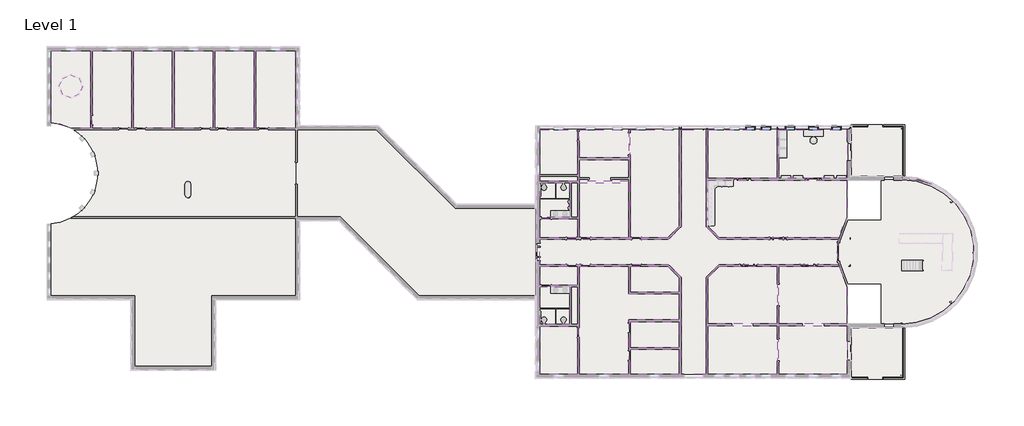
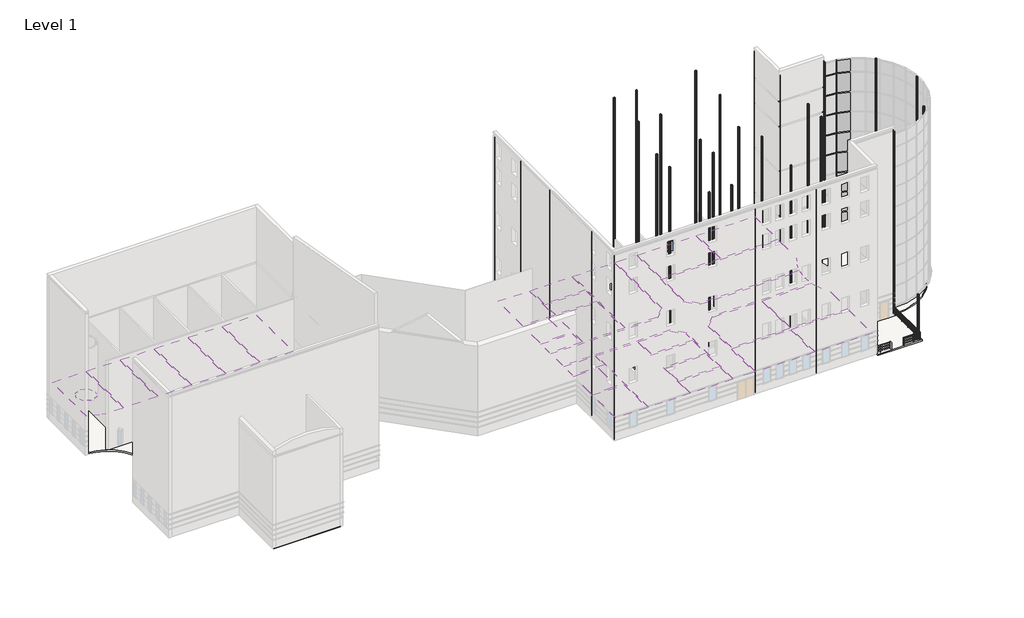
# One storey, part 14 of 16: 39 columns, 29 coverings, 14 members, 9 plates, 5 slabs, 5 windows, 1 railing.
"""IFC4 building model written with IfcOpenShell, lengths in millimetres."""

from ifc_helpers import new_model, si_unit, point, frame, frame_2d, origin, place, context, project, spatial, polyline, circle_curve, trimmed, segment, composite_curve, outline, extrude, transform, mapped, element, save
from components import hss_hollow_structural_section_column_hss6x6x5_8_3ddd67f5, hss_hollow_structural_section_column_hss6x6x5_8_4a98404a, hss_hollow_structural_section_column_hss6x6x5_8_caf964b1, hss_hollow_structural_section_column_hss6x6x5_8_5bbd49d1, member_408f6c1a, member_f0fea5a5, member_788d4f16, system_panel_glazed_294e175a, system_panel_glazed_36605c35, system_panel_glazed_41a16be2, handrail_pipe_807aec9c, window_145f8bd4

model = new_model("IFC4")

# Units and contexts
model_context = context("Model", 3, world=origin())
ifc_project = project(units=[si_unit("LENGTHUNIT", "METRE", prefix="MILLI")], contexts=[model_context])

# Site, building, storey
site = spatial("IfcSite", under=ifc_project)
building = spatial("IfcBuilding", under=site)
storey = spatial("IfcBuildingStorey", under=building, Name="Level 1", Elevation=0.0)

# Columns
placement = place(None, origin())
hss_hollow_structural_section_column_hss6x6x5_8_shape = hss_hollow_structural_section_column_hss6x6x5_8_3ddd67f5(model_context)
element("IfcColumn", 1, ObjectType="HSS-Hollow Structural Section-Column : HSS6X6X5/8", at=placement, inside=storey, context=model_context, shape_type="MappedRepresentation", body=[
    mapped(hss_hollow_structural_section_column_hss6x6x5_8_shape, transform((15099.262245, 12568.0862109, 0.0), x_axis=(1.0, 0.0, 0.0), y_axis=(0.0, 1.0, 0.0), z_axis=(0.0, 0.0, 1.0))),
])
element("IfcColumn", 2, ObjectType="HSS-Hollow Structural Section-Column : HSS6X6X5/8", at=placement, inside=storey, context=model_context, shape_type="MappedRepresentation", body=[
    mapped(hss_hollow_structural_section_column_hss6x6x5_8_shape, transform((15099.262245, 12239.4737109, 0.0), x_axis=(1.0, 0.0, 0.0), y_axis=(0.0, 1.0, 0.0), z_axis=(0.0, 0.0, 1.0))),
])
element("IfcColumn", 3, ObjectType="HSS-Hollow Structural Section-Column : HSS6X6X5/8", at=placement, inside=storey, context=model_context, shape_type="MappedRepresentation", body=[
    mapped(hss_hollow_structural_section_column_hss6x6x5_8_shape, transform((19914.9245899, 10244.7610558, 0.0), x_axis=(0.7071067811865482, 0.7071067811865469, 0.0), y_axis=(-0.7071067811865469, 0.7071067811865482, 0.0), z_axis=(0.0, 0.0, 1.0))),
])
element("IfcColumn", 4, ObjectType="HSS-Hollow Structural Section-Column : HSS6X6X5/8", at=placement, inside=storey, context=model_context, shape_type="MappedRepresentation", body=[
    mapped(hss_hollow_structural_section_column_hss6x6x5_8_shape, transform((21909.637245, 5429.0987109, 0.0), x_axis=(0.0, 1.0, 0.0), y_axis=(-1.0, 0.0, 0.0), z_axis=(0.0, 0.0, 1.0))),
])
element("IfcColumn", 5, ObjectType="HSS-Hollow Structural Section-Column : HSS6X6X5/8", at=placement, inside=storey, context=model_context, shape_type="MappedRepresentation", body=[
    mapped(hss_hollow_structural_section_column_hss6x6x5_8_shape, transform((19877.7716486, 576.5678742, 0.0), x_axis=(0.7071067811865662, 0.7071067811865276, 0.0), y_axis=(-0.7071067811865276, 0.7071067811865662, 0.0), z_axis=(0.0, 0.0, 1.0))),
])
element("IfcColumn", 6, ObjectType="HSS-Hollow Structural Section-Column : HSS6X6X5/8", at=placement, inside=storey, context=model_context, shape_type="MappedRepresentation", body=[
    mapped(hss_hollow_structural_section_column_hss6x6x5_8_shape, transform((-20081.325255, 17444.8862109, 0.0), x_axis=(1.0, 0.0, 0.0), y_axis=(0.0, 1.0, 0.0), z_axis=(0.0, 0.0, 1.0))),
])
element("IfcColumn", 7, ObjectType="HSS-Hollow Structural Section-Column : HSS6X6X5/8", at=placement, inside=storey, context=model_context, shape_type="MappedRepresentation", body=[
    mapped(hss_hollow_structural_section_column_hss6x6x5_8_shape, transform((-6314.525255, 17444.8862109, 0.0), x_axis=(1.0, 0.0, 0.0), y_axis=(0.0, 1.0, 0.0), z_axis=(0.0, 0.0, 1.0))),
])
element("IfcColumn", 8, ObjectType="HSS-Hollow Structural Section-Column : HSS6X6X5/8", at=placement, inside=storey, context=model_context, shape_type="MappedRepresentation", body=[
    mapped(hss_hollow_structural_section_column_hss6x6x5_8_shape, transform((-3720.550255, 17444.8862109, 0.0), x_axis=(1.0, 0.0, 0.0), y_axis=(0.0, 1.0, 0.0), z_axis=(0.0, 0.0, 1.0))),
])
element("IfcColumn", 9, ObjectType="HSS-Hollow Structural Section-Column : HSS6X6X5/8", at=placement, inside=storey, context=model_context, shape_type="MappedRepresentation", body=[
    mapped(hss_hollow_structural_section_column_hss6x6x5_8_shape, transform((3162.849745, 17444.8862109, 0.0), x_axis=(1.0, 0.0, 0.0), y_axis=(0.0, 1.0, 0.0), z_axis=(0.0, 0.0, 1.0))),
])
element("IfcColumn", 10, ObjectType="HSS-Hollow Structural Section-Column : HSS6X6X5/8", at=placement, inside=storey, context=model_context, shape_type="MappedRepresentation", body=[
    mapped(hss_hollow_structural_section_column_hss6x6x5_8_shape, transform((10046.249745, 17444.8862109, 0.0), x_axis=(1.0, 0.0, 0.0), y_axis=(0.0, 1.0, 0.0), z_axis=(0.0, 0.0, 1.0))),
])
element("IfcColumn", 11, ObjectType="HSS-Hollow Structural Section-Column : HSS6X6X5/8", at=placement, inside=storey, context=model_context, shape_type="MappedRepresentation", body=[
    mapped(hss_hollow_structural_section_column_hss6x6x5_8_shape, transform((-20081.325255, 12568.0862109, 0.0), x_axis=(1.0, 0.0, 0.0), y_axis=(0.0, 1.0, 0.0), z_axis=(0.0, 0.0, 1.0))),
])
element("IfcColumn", 12, ObjectType="HSS-Hollow Structural Section-Column : HSS6X6X5/8", at=placement, inside=storey, context=model_context, shape_type="MappedRepresentation", body=[
    mapped(hss_hollow_structural_section_column_hss6x6x5_8_shape, transform((-6314.525255, 12568.0862109, 0.0), x_axis=(1.0, 0.0, 0.0), y_axis=(0.0, 1.0, 0.0), z_axis=(0.0, 0.0, 1.0))),
])
element("IfcColumn", 13, ObjectType="HSS-Hollow Structural Section-Column : HSS6X6X5/8", at=placement, inside=storey, context=model_context, shape_type="MappedRepresentation", body=[
    mapped(hss_hollow_structural_section_column_hss6x6x5_8_shape, transform((-3720.550255, 12568.0862109, 0.0), x_axis=(1.0, 0.0, 0.0), y_axis=(0.0, 1.0, 0.0), z_axis=(0.0, 0.0, 1.0))),
])
element("IfcColumn", 14, ObjectType="HSS-Hollow Structural Section-Column : HSS6X6X5/8", at=placement, inside=storey, context=model_context, shape_type="MappedRepresentation", body=[
    mapped(hss_hollow_structural_section_column_hss6x6x5_8_shape, transform((3162.849745, 12568.0862109, 0.0), x_axis=(1.0, 0.0, 0.0), y_axis=(0.0, 1.0, 0.0), z_axis=(0.0, 0.0, 1.0))),
])
element("IfcColumn", 15, ObjectType="HSS-Hollow Structural Section-Column : HSS6X6X5/8", at=placement, inside=storey, context=model_context, shape_type="MappedRepresentation", body=[
    mapped(hss_hollow_structural_section_column_hss6x6x5_8_shape, transform((10046.249745, 12568.0862109, 0.0), x_axis=(1.0, 0.0, 0.0), y_axis=(0.0, 1.0, 0.0), z_axis=(0.0, 0.0, 1.0))),
])
element("IfcColumn", 16, ObjectType="HSS-Hollow Structural Section-Column : HSS6X6X5/8", at=placement, inside=storey, context=model_context, shape_type="MappedRepresentation", body=[
    mapped(hss_hollow_structural_section_column_hss6x6x5_8_shape, transform((-20081.325255, -1709.8887891, 0.0), x_axis=(1.0, 0.0, 0.0), y_axis=(0.0, 1.0, 0.0), z_axis=(0.0, 0.0, 1.0))),
])
element("IfcColumn", 17, ObjectType="HSS-Hollow Structural Section-Column : HSS6X6X5/8", at=placement, inside=storey, context=model_context, shape_type="MappedRepresentation", body=[
    mapped(hss_hollow_structural_section_column_hss6x6x5_8_shape, transform((-6314.525255, -1709.8887891, 0.0), x_axis=(1.0, 0.0, 0.0), y_axis=(0.0, 1.0, 0.0), z_axis=(0.0, 0.0, 1.0))),
])
element("IfcColumn", 18, ObjectType="HSS-Hollow Structural Section-Column : HSS6X6X5/8", at=placement, inside=storey, context=model_context, shape_type="MappedRepresentation", body=[
    mapped(hss_hollow_structural_section_column_hss6x6x5_8_shape, transform((-3720.550255, -1709.8887891, 0.0), x_axis=(1.0, 0.0, 0.0), y_axis=(0.0, 1.0, 0.0), z_axis=(0.0, 0.0, 1.0))),
])
element("IfcColumn", 19, ObjectType="HSS-Hollow Structural Section-Column : HSS6X6X5/8", at=placement, inside=storey, context=model_context, shape_type="MappedRepresentation", body=[
    mapped(hss_hollow_structural_section_column_hss6x6x5_8_shape, transform((3162.849745, -1709.8887891, 0.0), x_axis=(1.0, 0.0, 0.0), y_axis=(0.0, 1.0, 0.0), z_axis=(0.0, 0.0, 1.0))),
])
element("IfcColumn", 20, ObjectType="HSS-Hollow Structural Section-Column : HSS6X6X5/8", at=placement, inside=storey, context=model_context, shape_type="MappedRepresentation", body=[
    mapped(hss_hollow_structural_section_column_hss6x6x5_8_shape, transform((10046.249745, -1709.8887891, 0.0), x_axis=(1.0, 0.0, 0.0), y_axis=(0.0, 1.0, 0.0), z_axis=(0.0, 0.0, 1.0))),
])
element("IfcColumn", 21, ObjectType="HSS-Hollow Structural Section-Column : HSS6X6X5/8", at=placement, inside=storey, context=model_context, shape_type="MappedRepresentation", body=[
    mapped(hss_hollow_structural_section_column_hss6x6x5_8_shape, transform((-20081.325255, -6586.6887891, 0.0), x_axis=(-1.0, 0.0, 0.0), y_axis=(0.0, -1.0, 0.0), z_axis=(0.0, 0.0, 1.0))),
])
element("IfcColumn", 22, ObjectType="HSS-Hollow Structural Section-Column : HSS6X6X5/8", at=placement, inside=storey, context=model_context, shape_type="MappedRepresentation", body=[
    mapped(hss_hollow_structural_section_column_hss6x6x5_8_shape, transform((-6314.525255, -6586.6887891, 0.0), x_axis=(-1.0, 0.0, 0.0), y_axis=(0.0, -1.0, 0.0), z_axis=(0.0, 0.0, 1.0))),
])
element("IfcColumn", 23, ObjectType="HSS-Hollow Structural Section-Column : HSS6X6X5/8", at=placement, inside=storey, context=model_context, shape_type="MappedRepresentation", body=[
    mapped(hss_hollow_structural_section_column_hss6x6x5_8_shape, transform((-3720.550255, -6586.6887891, 0.0), x_axis=(-1.0, 0.0, 0.0), y_axis=(0.0, -1.0, 0.0), z_axis=(0.0, 0.0, 1.0))),
])
element("IfcColumn", 24, ObjectType="HSS-Hollow Structural Section-Column : HSS6X6X5/8", at=placement, inside=storey, context=model_context, shape_type="MappedRepresentation", body=[
    mapped(hss_hollow_structural_section_column_hss6x6x5_8_shape, transform((3162.849745, -6586.6887891, 0.0), x_axis=(-1.0, 0.0, 0.0), y_axis=(0.0, -1.0, 0.0), z_axis=(0.0, 0.0, 1.0))),
])
element("IfcColumn", 25, ObjectType="HSS-Hollow Structural Section-Column : HSS6X6X5/8", at=placement, inside=storey, context=model_context, shape_type="MappedRepresentation", body=[
    mapped(hss_hollow_structural_section_column_hss6x6x5_8_shape, transform((10046.249745, -6586.6887891, 0.0), x_axis=(-1.0, 0.0, 0.0), y_axis=(0.0, -1.0, 0.0), z_axis=(0.0, 0.0, 1.0))),
])
element("IfcColumn", 26, ObjectType="HSS-Hollow Structural Section-Column : HSS6X6X5/8", at=placement, inside=storey, context=model_context, shape_type="MappedRepresentation", body=[
    mapped(hss_hollow_structural_section_column_hss6x6x5_8_shape, transform((-20081.325255, 6726.0862109, 0.0), x_axis=(1.0, 0.0, 0.0), y_axis=(0.0, 1.0, 0.0), z_axis=(0.0, 0.0, 1.0))),
])
element("IfcColumn", 27, ObjectType="HSS-Hollow Structural Section-Column : HSS6X6X5/8", at=placement, inside=storey, context=model_context, shape_type="MappedRepresentation", body=[
    mapped(hss_hollow_structural_section_column_hss6x6x5_8_shape, transform((-7533.725255, 6726.0862109, 0.0), x_axis=(1.0, 0.0, 0.0), y_axis=(0.0, 1.0, 0.0), z_axis=(0.0, 0.0, 1.0))),
])
element("IfcColumn", 28, ObjectType="HSS-Hollow Structural Section-Column : HSS6X6X5/8", at=placement, inside=storey, context=model_context, shape_type="MappedRepresentation", body=[
    mapped(hss_hollow_structural_section_column_hss6x6x5_8_shape, transform((-2501.350255, 6726.0862109, 0.0), x_axis=(1.0, 0.0, 0.0), y_axis=(0.0, 1.0, 0.0), z_axis=(0.0, 0.0, 1.0))),
])
element("IfcColumn", 29, ObjectType="HSS-Hollow Structural Section-Column : HSS6X6X5/8", at=placement, inside=storey, context=model_context, shape_type="MappedRepresentation", body=[
    mapped(hss_hollow_structural_section_column_hss6x6x5_8_shape, transform((1943.649745, 6726.0862109, 0.0), x_axis=(1.0, 0.0, 0.0), y_axis=(0.0, 1.0, 0.0), z_axis=(0.0, 0.0, 1.0))),
])
element("IfcColumn", 30, ObjectType="HSS-Hollow Structural Section-Column : HSS6X6X5/8", at=placement, inside=storey, context=model_context, shape_type="MappedRepresentation", body=[
    mapped(hss_hollow_structural_section_column_hss6x6x5_8_shape, transform((10046.249745, 6726.0862109, 0.0), x_axis=(1.0, 0.0, 0.0), y_axis=(0.0, 1.0, 0.0), z_axis=(0.0, 0.0, 1.0))),
])
element("IfcColumn", 31, ObjectType="HSS-Hollow Structural Section-Column : HSS6X6X5/8", at=placement, inside=storey, context=model_context, shape_type="MappedRepresentation", body=[
    mapped(hss_hollow_structural_section_column_hss6x6x5_8_shape, transform((-20081.325255, 4132.1112109, 0.0), x_axis=(-1.0, 0.0, 0.0), y_axis=(0.0, -1.0, 0.0), z_axis=(0.0, 0.0, 1.0))),
])
element("IfcColumn", 32, ObjectType="HSS-Hollow Structural Section-Column : HSS6X6X5/8", at=placement, inside=storey, context=model_context, shape_type="MappedRepresentation", body=[
    mapped(hss_hollow_structural_section_column_hss6x6x5_8_shape, transform((-7533.725255, 4132.1112109, 0.0), x_axis=(-1.0, 0.0, 0.0), y_axis=(0.0, -1.0, 0.0), z_axis=(0.0, 0.0, 1.0))),
])
element("IfcColumn", 33, ObjectType="HSS-Hollow Structural Section-Column : HSS6X6X5/8", at=placement, inside=storey, context=model_context, shape_type="MappedRepresentation", body=[
    mapped(hss_hollow_structural_section_column_hss6x6x5_8_shape, transform((-2501.350255, 4132.1112109, 0.0), x_axis=(-1.0, 0.0, 0.0), y_axis=(0.0, -1.0, 0.0), z_axis=(0.0, 0.0, 1.0))),
])
element("IfcColumn", 34, ObjectType="HSS-Hollow Structural Section-Column : HSS6X6X5/8", at=placement, inside=storey, context=model_context, shape_type="MappedRepresentation", body=[
    mapped(hss_hollow_structural_section_column_hss6x6x5_8_shape, transform((3162.849745, 4132.1112109, 0.0), x_axis=(-1.0, 0.0, 0.0), y_axis=(0.0, -1.0, 0.0), z_axis=(0.0, 0.0, 1.0))),
])
element("IfcColumn", 35, ObjectType="HSS-Hollow Structural Section-Column : HSS6X6X5/8", at=placement, inside=storey, context=model_context, shape_type="MappedRepresentation", body=[
    mapped(hss_hollow_structural_section_column_hss6x6x5_8_shape, transform((10046.249745, 4132.1112109, 0.0), x_axis=(-1.0, 0.0, 0.0), y_axis=(0.0, -1.0, 0.0), z_axis=(0.0, 0.0, 1.0))),
])
hss_hollow_structural_section_column_hss6x6x5_8_2_shape = hss_hollow_structural_section_column_hss6x6x5_8_4a98404a(model_context)
element("IfcColumn", 36, ObjectType="HSS-Hollow Structural Section-Column : HSS6X6X5/8", at=placement, inside=storey, context=model_context, shape_type="MappedRepresentation", body=[
    mapped(hss_hollow_structural_section_column_hss6x6x5_8_2_shape, transform((15099.262245, -1709.8887891, 0.0), x_axis=(1.0, 0.0, 0.0), y_axis=(0.0, 1.0, 0.0), z_axis=(0.0, 0.0, 1.0))),
])
element("IfcColumn", 37, ObjectType="HSS-Hollow Structural Section-Column : HSS6X6X5/8", at=placement, inside=storey, context=model_context, shape_type="MappedRepresentation", body=[
    mapped(hss_hollow_structural_section_column_hss6x6x5_8_2_shape, transform((15099.262245, -1381.2762891, 0.0), x_axis=(1.0, 0.0, 0.0), y_axis=(0.0, 1.0, 0.0), z_axis=(0.0, 0.0, 1.0))),
])
hss_hollow_structural_section_column_hss6x6x5_8_3_shape = hss_hollow_structural_section_column_hss6x6x5_8_caf964b1(model_context)
element("IfcColumn", 38, ObjectType="HSS-Hollow Structural Section-Column : HSS6X6X5/8", at=placement, inside=storey, context=model_context, shape_type="MappedRepresentation", body=[
    mapped(hss_hollow_structural_section_column_hss6x6x5_8_3_shape, transform((15099.262245, 17444.8862109, 0.0), x_axis=(1.0, 0.0, 0.0), y_axis=(0.0, 1.0, 0.0), z_axis=(0.0, 0.0, 1.0))),
])
hss_hollow_structural_section_column_hss6x6x5_8_4_shape = hss_hollow_structural_section_column_hss6x6x5_8_5bbd49d1(model_context)
element("IfcColumn", 39, ObjectType="HSS-Hollow Structural Section-Column : HSS6X6X5/8", at=placement, inside=storey, context=model_context, shape_type="MappedRepresentation", body=[
    mapped(hss_hollow_structural_section_column_hss6x6x5_8_4_shape, transform((15099.262245, -6586.6887891, 0.0), x_axis=(1.0, 0.0, 0.0), y_axis=(0.0, 1.0, 0.0), z_axis=(0.0, 0.0, 1.0))),
])

# Coverings
element("IfcCovering", 40, ObjectType="2' x 4' ACT System", at=placement, inside=storey, context=model_context, shape_type="SweptSolid", body=[
    extrude(outline(polyline([(-16247.512755, 12277.5737109), (-19905.112755, 12277.5737109), (-19905.112755, 17268.6737109), (-16247.512755, 17268.6737109), (-16247.512755, 12277.5737109)])), frame((0.0, 0.0, 2438.4), z_axis=(0.0, 0.0, 1.0), x_axis=(1.0, 0.0, 0.0)), (0.0, 0.0, 1.0), 57.15),
])
element("IfcCovering", 41, ObjectType="2' x 4' ACT System", at=placement, inside=storey, context=model_context, shape_type="SweptSolid", body=[
    extrude(outline(polyline([(-16091.937755, 14525.4737109), (-16091.937755, 17268.6737109), (-11319.912755, 17268.6737109), (-11319.912755, 14525.4737109), (-16091.937755, 14525.4737109)])), frame((0.0, 0.0, 2438.4), z_axis=(0.0, 0.0, 1.0), x_axis=(1.0, 0.0, 0.0)), (0.0, 0.0, 1.0), 57.15),
])
element("IfcCovering", 42, ObjectType="2' x 4' ACT System", at=placement, inside=storey, context=model_context, shape_type="SweptSolid", body=[
    extrude(outline(polyline([(-11319.912755, 12277.5737109), (-16091.937755, 12277.5737109), (-16091.937755, 14369.8987109), (-11319.912755, 14369.8987109), (-11319.912755, 12277.5737109)])), frame((0.0, 0.0, 2438.4), z_axis=(0.0, 0.0, 1.0), x_axis=(1.0, 0.0, 0.0)), (0.0, 0.0, 1.0), 57.15),
])
element("IfcCovering", 43, ObjectType="2' x 4' ACT System", at=placement, inside=storey, context=model_context, shape_type="SweptSolid", body=[
    extrude(outline(polyline([(-11319.912755, 6803.8737109), (-16091.937755, 6803.8737109), (-16091.937755, 12121.9987109), (-11319.912755, 12121.9987109), (-11319.912755, 6803.8737109)])), frame((0.0, 0.0, 2438.4), z_axis=(0.0, 0.0, 1.0), x_axis=(1.0, 0.0, 0.0)), (0.0, 0.0, 1.0), 57.15),
])
element("IfcCovering", 44, ObjectType="2' x 4' ACT System", at=placement, inside=storey, context=model_context, shape_type="SweptSolid", body=[
    extrude(outline(polyline([(-11164.337755, 6803.8737109), (-11164.337755, 17268.6737109), (-6392.312755, 17268.6737109), (-6392.312755, 7931.9399859), (-7520.3790299, 6803.8737109), (-11164.337755, 6803.8737109)])), frame((0.0, 0.0, 2438.4), z_axis=(0.0, 0.0, 1.0), x_axis=(1.0, 0.0, 0.0)), (0.0, 0.0, 1.0), 57.15),
])
element("IfcCovering", 45, ObjectType="2' x 4' ACT System", at=placement, inside=storey, context=model_context, shape_type="SweptSolid", body=[
    extrude(outline(polyline([(3085.062245, 12547.4487109), (-3642.762755, 12547.4487109), (-3642.762755, 17268.6737109), (3085.062245, 17268.6737109), (3085.062245, 12547.4487109)])), frame((0.0, 0.0, 2438.4), z_axis=(0.0, 0.0, 1.0), x_axis=(1.0, 0.0, 0.0)), (0.0, 0.0, 1.0), 57.15),
])
element("IfcCovering", 46, ObjectType="2' x 4' ACT System", at=placement, inside=storey, context=model_context, shape_type="SweptSolid", body=[
    extrude(outline(polyline([(3240.637245, 12547.4487109), (3240.637245, 17268.6737109), (9870.037245, 17268.6737109), (9870.037245, 12547.4487109), (3240.637245, 12547.4487109)])), frame((0.0, 0.0, 2438.4), z_axis=(0.0, 0.0, 1.0), x_axis=(1.0, 0.0, 0.0)), (0.0, 0.0, 1.0), 57.15),
])
element("IfcCovering", 47, ObjectType="2' x 4' ACT System", at=placement, inside=storey, context=model_context, shape_type="SweptSolid", body=[
    extrude(outline(composite_curve([segment(polyline([(-3642.762755, 7931.9399859), (-3642.762755, 12391.8737109), (9870.037245, 12391.8737109), (9870.037245, 8826.0868297)]), True, "CONTINUOUS"), segment(trimmed(circle_curve(frame_2d((15025.2408119, 5429.0987109)), 6173.7875), [point((9870.037245, 8826.0868297))], [point((9006.466369, 6803.8737109))], True, "CARTESIAN"), True, "CONTINUOUS"), segment(polyline([(9006.466369, 6803.8737109), (-2514.69648, 6803.8737109), (-3642.762755, 7931.9399859)]), True, "CONTINUOUS")], self_intersect=False)), frame((0.0, 0.0, 2438.4), z_axis=(0.0, 0.0, 1.0), x_axis=(1.0, 0.0, 0.0)), (0.0, 0.0, 1.0), 57.15),
])
element("IfcCovering", 48, ObjectType="2' x 4' ACT System", at=placement, inside=storey, context=model_context, shape_type="SweptSolid", body=[
    extrude(outline(polyline([(-2514.69648, 4054.3237109), (3085.062245, 4054.3237109), (3085.062245, -1533.6762891), (-3642.762755, -1533.6762891), (-3642.762755, 2926.2574359), (-2514.69648, 4054.3237109)])), frame((0.0, 0.0, 2438.4), z_axis=(0.0, 0.0, 1.0), x_axis=(1.0, 0.0, 0.0)), (0.0, 0.0, 1.0), 57.15),
])
element("IfcCovering", 49, ObjectType="2' x 4' ACT System", at=placement, inside=storey, context=model_context, shape_type="SweptSolid", body=[
    extrude(outline(composite_curve([segment(trimmed(circle_curve(frame_2d((15025.2408119, 5429.0987109)), 6173.7875), [point((9006.466369, 4054.3237109))], [point((9870.037245, 2032.1105921))], True, "CARTESIAN"), True, "CONTINUOUS"), segment(polyline([(9870.037245, 2032.1105921), (9870.037245, -1533.6762891), (3240.637245, -1533.6762891), (3240.637245, 4054.3237109), (9006.466369, 4054.3237109)]), True, "CONTINUOUS")], self_intersect=False)), frame((0.0, 0.0, 2438.4), z_axis=(0.0, 0.0, 1.0), x_axis=(1.0, 0.0, 0.0)), (0.0, 0.0, 1.0), 57.15),
])
element("IfcCovering", 50, ObjectType="2' x 4' ACT System", at=placement, inside=storey, context=model_context, shape_type="SweptSolid", body=[
    extrude(outline(polyline([(9870.037245, -1689.2512891), (9870.037245, -6410.4762891), (3240.637245, -6410.4762891), (3240.637245, -1689.2512891), (9870.037245, -1689.2512891)])), frame((0.0, 0.0, 2438.4), z_axis=(0.0, 0.0, 1.0), x_axis=(1.0, 0.0, 0.0)), (0.0, 0.0, 1.0), 57.15),
])
element("IfcCovering", 51, ObjectType="2' x 4' ACT System", at=placement, inside=storey, context=model_context, shape_type="SweptSolid", body=[
    extrude(outline(polyline([(3085.062245, -6410.4762891), (-3642.762755, -6410.4762891), (-3642.762755, -1689.2512891), (3085.062245, -1689.2512891), (3085.062245, -6410.4762891)])), frame((0.0, 0.0, 2438.4), z_axis=(0.0, 0.0, 1.0), x_axis=(1.0, 0.0, 0.0)), (0.0, 0.0, 1.0), 57.15),
])
element("IfcCovering", 52, ObjectType="2' x 4' ACT System", at=placement, inside=storey, context=model_context, shape_type="SweptSolid", body=[
    extrude(outline(polyline([(-11164.337755, -1305.0762891), (-6392.312755, -1305.0762891), (-6392.312755, -3829.2012891), (-11164.337755, -3829.2012891), (-11164.337755, -1305.0762891)])), frame((0.0, 0.0, 2438.4), z_axis=(0.0, 0.0, 1.0), x_axis=(1.0, 0.0, 0.0)), (0.0, 0.0, 1.0), 57.15),
])
element("IfcCovering", 53, ObjectType="2' x 4' ACT System", at=placement, inside=storey, context=model_context, shape_type="SweptSolid", body=[
    extrude(outline(polyline([(-6392.312755, -3984.7762891), (-6392.312755, -6410.4762891), (-11164.337755, -6410.4762891), (-11164.337755, -3984.7762891), (-6392.312755, -3984.7762891)])), frame((0.0, 0.0, 2438.4), z_axis=(0.0, 0.0, 1.0), x_axis=(1.0, 0.0, 0.0)), (0.0, 0.0, 1.0), 57.15),
])
element("IfcCovering", 54, ObjectType="2' x 4' ACT System", at=placement, inside=storey, context=model_context, shape_type="SweptSolid", body=[
    extrude(outline(polyline([(-11319.912755, -1149.5012891), (-11319.912755, -6410.4762891), (-16091.937755, -6410.4762891), (-16091.937755, 4054.3237109), (-11319.912755, 4054.3237109), (-11319.912755, 1374.6237109), (-6392.312755, 1374.6237109), (-6392.312755, -1149.5012891), (-11319.912755, -1149.5012891)])), frame((0.0, 0.0, 2438.4), z_axis=(0.0, 0.0, 1.0), x_axis=(1.0, 0.0, 0.0)), (0.0, 0.0, 1.0), 57.15),
])
element("IfcCovering", 55, ObjectType="2' x 4' ACT System", at=placement, inside=storey, context=model_context, shape_type="SweptSolid", body=[
    extrude(outline(polyline([(-7520.3790299, 4054.3237109), (-6392.312755, 2926.2574359), (-6392.312755, 1530.1987109), (-11164.337755, 1530.1987109), (-11164.337755, 4054.3237109), (-7520.3790299, 4054.3237109)])), frame((0.0, 0.0, 2438.4), z_axis=(0.0, 0.0, 1.0), x_axis=(1.0, 0.0, 0.0)), (0.0, 0.0, 1.0), 57.15),
])
element("IfcCovering", 56, ObjectType="2' x 4' ACT System", at=placement, inside=storey, context=model_context, shape_type="SweptSolid", body=[
    extrude(outline(polyline([(-16247.512755, -1743.2262891), (-16247.512755, -6410.4762891), (-19905.112755, -6410.4762891), (-19905.112755, -1743.2262891), (-16247.512755, -1743.2262891)])), frame((0.0, 0.0, 2438.4), z_axis=(0.0, 0.0, 1.0), x_axis=(1.0, 0.0, 0.0)), (0.0, 0.0, 1.0), 57.15),
])
element("IfcCovering", 57, ObjectType="GWB on Mtl. Stud", at=placement, inside=storey, context=model_context, shape_type="SweptSolid", body=[
    extrude(outline(polyline([(-17012.687755, 8788.2487109), (-19905.112755, 8788.2487109), (-19905.112755, 12121.9987109), (-17012.687755, 12121.9987109), (-17012.687755, 8788.2487109)])), frame((0.0, 0.0, 2438.4), z_axis=(0.0, 0.0, 1.0), x_axis=(1.0, 0.0, 0.0)), (0.0, 0.0, 1.0), 107.95),
])
element("IfcCovering", 58, ObjectType="GWB on Mtl. Stud", at=placement, inside=storey, context=model_context, shape_type="SweptSolid", body=[
    extrude(outline(polyline([(-16247.512755, 6803.8737109), (-19905.112755, 6803.8737109), (-19905.112755, 8632.6737109), (-16247.512755, 8632.6737109), (-16247.512755, 6803.8737109)])), frame((0.0, 0.0, 2438.4), z_axis=(0.0, 0.0, 1.0), x_axis=(1.0, 0.0, 0.0)), (0.0, 0.0, 1.0), 107.95),
])
element("IfcCovering", 59, ObjectType="GWB on Mtl. Stud", at=placement, inside=storey, context=model_context, shape_type="SweptSolid", body=[
    extrude(outline(polyline([(-16247.512755, 2225.5237109), (-19905.112755, 2225.5237109), (-19905.112755, 4054.3237109), (-16247.512755, 4054.3237109), (-16247.512755, 2225.5237109)])), frame((0.0, 0.0, 2438.4), z_axis=(0.0, 0.0, 1.0), x_axis=(1.0, 0.0, 0.0)), (0.0, 0.0, 1.0), 107.95),
])
element("IfcCovering", 60, ObjectType="GWB on Mtl. Stud", at=placement, inside=storey, context=model_context, shape_type="SweptSolid", body=[
    extrude(outline(polyline([(-17012.687755, -1587.6512891), (-19905.112755, -1587.6512891), (-19905.112755, 2069.9487109), (-17012.687755, 2069.9487109), (-17012.687755, -1587.6512891)])), frame((0.0, 0.0, 2438.4), z_axis=(0.0, 0.0, 1.0), x_axis=(1.0, 0.0, 0.0)), (0.0, 0.0, 1.0), 107.95),
])
element("IfcCovering", 61, ObjectType="GWB on Mtl. Stud", at=placement, inside=storey, context=model_context, shape_type="SweptSolid", body=[
    extrude(outline(composite_curve([segment(polyline([(-3798.337755, -6410.4762891), (-6236.737755, -6410.4762891), (-6236.737755, 2990.6987109), (-7455.937755, 4209.8987109), (-19905.112755, 4209.8987109), (-19905.112755, 6648.2987109), (-7455.937755, 6648.2987109), (-6236.737755, 7867.4987109), (-6236.737755, 17268.6737109), (-3798.337755, 17268.6737109), (-3798.337755, 7867.4987109), (-2579.137755, 6648.2987109), (8973.0343171, 6648.2987109)]), True, "CONTINUOUS"), segment(trimmed(circle_curve(frame_2d((15025.2408119, 5429.0987109)), 6173.7875), [point((8973.0343171, 6648.2987109))], [point((8973.0343171, 4209.8987109))], True, "CARTESIAN"), True, "CONTINUOUS"), segment(polyline([(8973.0343171, 4209.8987109), (-2579.137755, 4209.8987109), (-3798.337755, 2990.6987109), (-3798.337755, -6410.4762891)]), True, "CONTINUOUS")], self_intersect=False)), frame((0.0, 0.0, 2438.4), z_axis=(0.0, 0.0, 1.0), x_axis=(1.0, 0.0, 0.0)), (0.0, 0.0, 1.0), 107.95),
])
element("IfcCovering", 62, ObjectType="Mahogany Veneer on Metal Framing", at=placement, inside=storey, context=model_context, shape_type="SweptSolid", body=[
    extrude(outline(composite_curve([segment(trimmed(circle_curve(frame_2d((-65291.9669457, 21453.3237109)), 1104.9), [point((-64187.0669457, 21453.3237109))], [point((-66396.8669457, 21453.3237109))], False, "CARTESIAN"), True, "CONTINUOUS"), segment(trimmed(circle_curve(frame_2d((-65291.9669457, 21453.3237109)), 1104.9), [point((-66396.8669457, 21453.3237109))], [point((-64187.0669457, 21453.3237109))], False, "CARTESIAN"), True, "CONTINUOUS")], self_intersect=False)), frame((0.0, 0.0, 4292.6), z_axis=(0.0, 0.0, 1.0), x_axis=(1.0, 0.0, 0.0)), (0.0, 0.0, 1.0), 127.0),
])
element("IfcCovering", 63, ObjectType="Wood Veneer on Metal Framing", at=placement, inside=storey, context=model_context, shape_type="SweptSolid", body=[
    extrude(outline(composite_curve([segment(polyline([(-67222.1023623, 17960.8965691), (-67222.1023623, 24888.6737109), (-63361.831529, 24888.6737109), (-63361.831529, 17424.2487109), (-65314.4335461, 17424.2487109)]), True, "CONTINUOUS"), segment(trimmed(circle_curve(frame_2d((-67574.5273623, 13049.0987109)), 4924.425), [point((-65314.4335461, 17424.2487109))], [point((-67222.1023623, 17960.8965691))], True, "CARTESIAN"), True, "CONTINUOUS")], self_intersect=False), holes=[composite_curve([segment(trimmed(circle_curve(frame_2d((-65291.9669457, 21453.3237109)), 1219.2), [point((-66511.1669457, 21453.3237109))], [point((-64072.7669457, 21453.3237109))], True, "CARTESIAN"), True, "CONTINUOUS"), segment(trimmed(circle_curve(frame_2d((-65291.9669457, 21453.3237109)), 1219.2), [point((-64072.7669457, 21453.3237109))], [point((-66511.1669457, 21453.3237109))], True, "CARTESIAN"), True, "CONTINUOUS")], self_intersect=False)]), frame((0.0, 0.0, 4419.6), z_axis=(0.0, 0.0, 1.0), x_axis=(1.0, 0.0, 0.0)), (0.0, 0.0, 1.0), 127.0),
])
element("IfcCovering", 64, ObjectType="Wood Veneer on Metal Framing", at=placement, inside=storey, context=model_context, shape_type="SweptSolid", body=[
    extrude(outline(polyline([(-63206.256529, 24888.6737109), (-59411.0731957, 24888.6737109), (-59411.0731957, 17424.2487109), (-63206.256529, 17424.2487109), (-63206.256529, 24888.6737109)])), frame((0.0, 0.0, 4419.6), z_axis=(0.0, 0.0, 1.0), x_axis=(1.0, 0.0, 0.0)), (0.0, 0.0, 1.0), 127.0),
])
element("IfcCovering", 65, ObjectType="Wood Veneer on Metal Framing", at=placement, inside=storey, context=model_context, shape_type="SweptSolid", body=[
    extrude(outline(polyline([(-59255.4981957, 17424.2487109), (-59255.4981957, 24888.6737109), (-55460.3148623, 24888.6737109), (-55460.3148623, 17424.2487109), (-59255.4981957, 17424.2487109)])), frame((0.0, 0.0, 4419.6), z_axis=(0.0, 0.0, 1.0), x_axis=(1.0, 0.0, 0.0)), (0.0, 0.0, 1.0), 127.0),
])
element("IfcCovering", 66, ObjectType="Wood Veneer on Metal Framing", at=placement, inside=storey, context=model_context, shape_type="SweptSolid", body=[
    extrude(outline(polyline([(-55304.7398623, 24888.6737109), (-51509.556529, 24888.6737109), (-51509.556529, 17424.2487109), (-55304.7398623, 17424.2487109), (-55304.7398623, 24888.6737109)])), frame((0.0, 0.0, 4419.6), z_axis=(0.0, 0.0, 1.0), x_axis=(1.0, 0.0, 0.0)), (0.0, 0.0, 1.0), 127.0),
])
element("IfcCovering", 67, ObjectType="Wood Veneer on Metal Framing", at=placement, inside=storey, context=model_context, shape_type="SweptSolid", body=[
    extrude(outline(polyline([(-51353.981529, 17424.2487109), (-51353.981529, 24888.6737109), (-47558.7981957, 24888.6737109), (-47558.7981957, 17424.2487109), (-51353.981529, 17424.2487109)])), frame((0.0, 0.0, 4419.6), z_axis=(0.0, 0.0, 1.0), x_axis=(1.0, 0.0, 0.0)), (0.0, 0.0, 1.0), 127.0),
])
element("IfcCovering", 68, ObjectType="Wood Veneer on Metal Framing", at=placement, inside=storey, context=model_context, shape_type="SweptSolid", body=[
    extrude(outline(polyline([(-47403.2231957, 24888.6737109), (-43542.9523623, 24888.6737109), (-43542.9523623, 17424.2487109), (-47403.2231957, 17424.2487109), (-47403.2231957, 24888.6737109)])), frame((0.0, 0.0, 4419.6), z_axis=(0.0, 0.0, 1.0), x_axis=(1.0, 0.0, 0.0)), (0.0, 0.0, 1.0), 127.0),
])

# Members
member_shape = member_408f6c1a(model_context)
element("IfcMember", 69, ObjectType="Rectangular Mullion : 2.5\" x 5\" rectangular", at=placement, inside=storey, context=model_context, shape_type="MappedRepresentation", body=[
    mapped(member_shape, transform((16551.9651367, 12415.4009844, 10845.8), x_axis=(0.0, 0.0, 1.0), y_axis=(-0.10452846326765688, -0.9945218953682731, 0.0), z_axis=(0.9945218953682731, -0.10452846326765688, 0.0))),
])
element("IfcMember", 70, ObjectType="Rectangular Mullion : 2.5\" x 5\" rectangular", at=placement, inside=storey, context=model_context, shape_type="MappedRepresentation", body=[
    mapped(member_shape, transform((16551.9651367, 12415.4009844, 13284.2), x_axis=(0.0, 0.0, 1.0), y_axis=(-0.10452846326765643, -0.9945218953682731, 0.0), z_axis=(0.9945218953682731, -0.10452846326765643, 0.0))),
])
element("IfcMember", 71, ObjectType="Rectangular Mullion : 2.5\" x 5\" rectangular", at=placement, inside=storey, context=model_context, shape_type="MappedRepresentation", body=[
    mapped(member_shape, transform((16551.9651367, 12415.4009844, 15722.6), x_axis=(0.0, 0.0, 1.0), y_axis=(-0.10452846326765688, -0.9945218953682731, 0.0), z_axis=(0.9945218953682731, -0.10452846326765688, 0.0))),
])
element("IfcMember", 72, ObjectType="Rectangular Mullion : 2.5\" x 5\" rectangular", at=placement, inside=storey, context=model_context, shape_type="MappedRepresentation", body=[
    mapped(member_shape, transform((16551.9651367, 12415.4009844, 18161.0), x_axis=(0.0, 0.0, 1.0), y_axis=(-0.10452846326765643, -0.9945218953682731, 0.0), z_axis=(0.9945218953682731, -0.10452846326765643, 0.0))),
])
element("IfcMember", 73, ObjectType="Rectangular Mullion : 2.5\" x 5\" rectangular", at=placement, inside=storey, context=model_context, shape_type="MappedRepresentation", body=[
    mapped(member_shape, transform((16551.9651367, 12415.4009844, 20599.4), x_axis=(0.0, 0.0, 1.0), y_axis=(-0.10452846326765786, -0.994521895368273, 0.0), z_axis=(0.994521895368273, -0.10452846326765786, 0.0))),
])
member_2_shape = member_f0fea5a5(model_context)
element("IfcMember", 74, ObjectType="Rectangular Mullion : 2.5\" x 5\" rectangular", at=placement, inside=storey, context=model_context, shape_type="MappedRepresentation", body=[
    mapped(member_2_shape, transform((16583.5412069, 12412.0822057, 1092.2), x_axis=(0.9781476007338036, -0.2079116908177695, 0.0), y_axis=(-0.2079116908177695, -0.9781476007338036, 0.0), z_axis=(0.0, 0.0, -1.0))),
])
element("IfcMember", 75, ObjectType="Rectangular Mullion : 2.5\" x 5\" rectangular", at=placement, inside=storey, context=model_context, shape_type="MappedRepresentation", body=[
    mapped(member_2_shape, transform((16583.5412069, 12412.0822057, 3530.6), x_axis=(0.9781476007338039, -0.20791169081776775, 0.0), y_axis=(-0.20791169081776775, -0.9781476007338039, 0.0), z_axis=(0.0, 0.0, -1.0))),
])
element("IfcMember", 76, ObjectType="Rectangular Mullion : 2.5\" x 5\" rectangular", at=placement, inside=storey, context=model_context, shape_type="MappedRepresentation", body=[
    mapped(member_2_shape, transform((16583.5412069, 12412.0822057, 5969.0), x_axis=(0.978147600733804, -0.20791169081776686, 0.0), y_axis=(-0.20791169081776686, -0.978147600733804, 0.0), z_axis=(0.0, 0.0, -1.0))),
])
element("IfcMember", 77, ObjectType="Rectangular Mullion : 2.5\" x 5\" rectangular", at=placement, inside=storey, context=model_context, shape_type="MappedRepresentation", body=[
    mapped(member_2_shape, transform((16583.5412069, 12412.0822057, 8407.4), x_axis=(0.978147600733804, -0.20791169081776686, 0.0), y_axis=(-0.20791169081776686, -0.978147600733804, 0.0), z_axis=(0.0, 0.0, -1.0))),
])
element("IfcMember", 78, ObjectType="Rectangular Mullion : 2.5\" x 5\" rectangular", at=placement, inside=storey, context=model_context, shape_type="MappedRepresentation", body=[
    mapped(member_2_shape, transform((16583.5412069, 12412.0822057, 10845.8), x_axis=(0.978147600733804, -0.20791169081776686, 0.0), y_axis=(-0.20791169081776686, -0.978147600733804, 0.0), z_axis=(0.0, 0.0, -1.0))),
])
element("IfcMember", 79, ObjectType="Rectangular Mullion : 2.5\" x 5\" rectangular", at=placement, inside=storey, context=model_context, shape_type="MappedRepresentation", body=[
    mapped(member_2_shape, transform((16583.5412069, 12412.0822057, 13284.2), x_axis=(0.978147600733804, -0.20791169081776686, 0.0), y_axis=(-0.20791169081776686, -0.978147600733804, 0.0), z_axis=(0.0, 0.0, -1.0))),
])
element("IfcMember", 80, ObjectType="Rectangular Mullion : 2.5\" x 5\" rectangular", at=placement, inside=storey, context=model_context, shape_type="MappedRepresentation", body=[
    mapped(member_2_shape, transform((16583.5412069, 12412.0822057, 15722.6), x_axis=(0.978147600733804, -0.20791169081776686, 0.0), y_axis=(-0.20791169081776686, -0.978147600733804, 0.0), z_axis=(0.0, 0.0, -1.0))),
])
element("IfcMember", 81, ObjectType="Rectangular Mullion : 2.5\" x 5\" rectangular", at=placement, inside=storey, context=model_context, shape_type="MappedRepresentation", body=[
    mapped(member_2_shape, transform((16583.5412069, 12412.0822057, 18161.0), x_axis=(0.978147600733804, -0.20791169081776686, 0.0), y_axis=(-0.20791169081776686, -0.978147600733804, 0.0), z_axis=(0.0, 0.0, -1.0))),
])
member_3_shape = member_788d4f16(model_context)
element("IfcMember", 82, ObjectType="Rectangular Mullion : 2.5\" x 5\" rectangular", at=placement, inside=storey, context=model_context, shape_type="MappedRepresentation", body=[
    mapped(member_3_shape, transform((16583.5412069, 12412.0822057, 20599.4), x_axis=(0.9781476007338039, -0.20791169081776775, 0.0), y_axis=(-0.20791169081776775, -0.9781476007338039, 0.0), z_axis=(0.0, 0.0, -1.0))),
])

# Plates
system_panel_glazed_shape = system_panel_glazed_294e175a(model_context)
element("IfcPlate", 83, ObjectType="System Panel : Glazed", at=placement, inside=storey, context=model_context, shape_type="MappedRepresentation", body=[
    mapped(system_panel_glazed_shape, transform((17293.2456313, 12181.4852597, 1155.7), x_axis=(0.9510565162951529, -0.3090169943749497, 0.0), y_axis=(0.3090169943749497, 0.9510565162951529, 0.0), z_axis=(0.0, 0.0, 1.0))),
])
system_panel_glazed_2_shape = system_panel_glazed_36605c35(model_context)
element("IfcPlate", 84, ObjectType="System Panel : Glazed", at=placement, inside=storey, context=model_context, shape_type="MappedRepresentation", body=[
    mapped(system_panel_glazed_2_shape, transform((17293.2456313, 12181.4852597, 3562.35), x_axis=(0.9510565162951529, -0.3090169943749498, 0.0), y_axis=(0.3090169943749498, 0.9510565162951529, 0.0), z_axis=(0.0, 0.0, 1.0))),
])
element("IfcPlate", 85, ObjectType="System Panel : Glazed", at=placement, inside=storey, context=model_context, shape_type="MappedRepresentation", body=[
    mapped(system_panel_glazed_2_shape, transform((17293.2456313, 12181.4852597, 6000.75), x_axis=(0.9510565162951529, -0.3090169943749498, 0.0), y_axis=(0.3090169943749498, 0.9510565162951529, 0.0), z_axis=(0.0, 0.0, 1.0))),
])
element("IfcPlate", 86, ObjectType="System Panel : Glazed", at=placement, inside=storey, context=model_context, shape_type="MappedRepresentation", body=[
    mapped(system_panel_glazed_2_shape, transform((17293.2456313, 12181.4852597, 8439.15), x_axis=(0.9510565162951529, -0.3090169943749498, 0.0), y_axis=(0.3090169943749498, 0.9510565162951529, 0.0), z_axis=(0.0, 0.0, 1.0))),
])
element("IfcPlate", 87, ObjectType="System Panel : Glazed", at=placement, inside=storey, context=model_context, shape_type="MappedRepresentation", body=[
    mapped(system_panel_glazed_2_shape, transform((17293.2456313, 12181.4852597, 10877.55), x_axis=(0.9510565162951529, -0.3090169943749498, 0.0), y_axis=(0.3090169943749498, 0.9510565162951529, 0.0), z_axis=(0.0, 0.0, 1.0))),
])
element("IfcPlate", 88, ObjectType="System Panel : Glazed", at=placement, inside=storey, context=model_context, shape_type="MappedRepresentation", body=[
    mapped(system_panel_glazed_2_shape, transform((17293.2456313, 12181.4852597, 13315.95), x_axis=(0.9510565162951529, -0.3090169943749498, 0.0), y_axis=(0.3090169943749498, 0.9510565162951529, 0.0), z_axis=(0.0, 0.0, 1.0))),
])
element("IfcPlate", 89, ObjectType="System Panel : Glazed", at=placement, inside=storey, context=model_context, shape_type="MappedRepresentation", body=[
    mapped(system_panel_glazed_2_shape, transform((17293.2456313, 12181.4852597, 15754.35), x_axis=(0.9510565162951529, -0.3090169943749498, 0.0), y_axis=(0.3090169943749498, 0.9510565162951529, 0.0), z_axis=(0.0, 0.0, 1.0))),
])
element("IfcPlate", 90, ObjectType="System Panel : Glazed", at=placement, inside=storey, context=model_context, shape_type="MappedRepresentation", body=[
    mapped(system_panel_glazed_2_shape, transform((17293.2456313, 12181.4852597, 18192.75), x_axis=(0.9510565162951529, -0.3090169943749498, 0.0), y_axis=(0.3090169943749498, 0.9510565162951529, 0.0), z_axis=(0.0, 0.0, 1.0))),
])
system_panel_glazed_3_shape = system_panel_glazed_41a16be2(model_context)
element("IfcPlate", 91, ObjectType="System Panel : Glazed", at=placement, inside=storey, context=model_context, shape_type="MappedRepresentation", body=[
    mapped(system_panel_glazed_3_shape, transform((17293.2456313, 12181.4852597, 20631.15), x_axis=(0.9510565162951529, -0.3090169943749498, 0.0), y_axis=(0.3090169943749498, 0.9510565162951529, 0.0), z_axis=(0.0, 0.0, 1.0))),
])

# Railing
handrail_pipe_shape = handrail_pipe_807aec9c(model_context)
element("IfcRailing", 92, ObjectType="Handrail - Pipe", at=placement, inside=storey, context=model_context, shape_type="MappedRepresentation", body=[
    mapped(handrail_pipe_shape, transform((0.0, 0.0, 0.0), x_axis=(1.0, 0.0, 0.0), y_axis=(0.0, 1.0, 0.0), z_axis=(0.0, 0.0, 1.0))),
])

# Slabs
element("IfcSlab", 93, ObjectType="6\" Slab on Grade with 1\" Finish", at=placement, inside=storey, context=model_context, shape_type="SweptSolid", body=[
    extrude(outline(composite_curve([segment(polyline([(-67234.8023623, 17949.0608944), (-67234.8023623, 24901.3737109), (-43530.2523623, 24901.3737109), (-43530.2523623, 1196.8237109), (-51505.8523623, 1196.8237109), (-51505.8523623, -5813.5762891), (-59259.2023623, -5813.5762891), (-59259.2023623, 1196.8237109), (-67234.8023623, 1196.8237109), (-67234.8023623, 8149.1365274)]), True, "CONTINUOUS"), segment(trimmed(circle_curve(frame_2d((-67574.5273623, 13049.0987109)), 4911.725), [point((-67234.8023623, 8149.1365274))], [point((-67234.8023623, 17949.0608944))], True, "CARTESIAN"), True, "CONTINUOUS")], self_intersect=False)), frame((0.0, 0.0, -177.8), z_axis=(0.0, 0.0, 1.0), x_axis=(1.0, 0.0, 0.0)), (0.0, 0.0, 1.0), 177.8),
])
element("IfcSlab", 94, ObjectType="6\" Slab on Grade with 1\" Finish", at=placement, inside=storey, context=model_context, shape_type="SweptSolid", body=[
    extrude(outline(polyline([(-28091.2460648, 9661.3737109), (-20257.537755, 9661.3737109), (-20257.537755, 1196.8237109), (-31597.3774742, 1196.8237109), (-39217.3774742, 8816.8237109), (-43542.9523623, 8816.8237109), (-43542.9523623, 17281.3737109), (-35711.2460648, 17281.3737109), (-28091.2460648, 9661.3737109)])), frame((0.0, 0.0, -177.8), z_axis=(0.0, 0.0, 1.0), x_axis=(1.0, 0.0, 0.0)), (0.0, 0.0, 1.0), 177.8),
])
element("IfcSlab", 95, ObjectType="6\" Slab on Grade with 1\" Finish", at=placement, inside=storey, context=model_context, shape_type="SweptSolid", body=[
    extrude(outline(composite_curve([segment(polyline([(-19917.812755, 4590.8987109), (-20257.537755, 4590.8987109), (-20257.537755, 6267.2987109), (-19917.812755, 6267.2987109), (-19917.812755, 17281.3737109), (9882.737245, 17281.3737109), (9882.737245, 12404.5737109), (15099.262245, 12404.5737109)]), True, "CONTINUOUS"), segment(trimmed(circle_curve(frame_2d((15099.262245, 5429.0987109)), 6975.475), [point((15099.262245, 12404.5737109))], [point((15099.262245, -1546.3762891))], False, "CARTESIAN"), True, "CONTINUOUS"), segment(polyline([(15099.262245, -1546.3762891), (9882.737245, -1546.3762891), (9882.737245, -6423.1762891), (-19917.812755, -6423.1762891), (-19917.812755, 4590.8987109)]), True, "CONTINUOUS")], self_intersect=False), holes=[polyline([(9870.037245, 8540.5987109), (13111.712245, 8540.5987109), (13111.712245, 12391.8737109), (9870.037245, 12391.8737109), (9870.037245, 8540.5987109)]), polyline([(9870.037245, 2317.5987109), (9870.037245, -1533.6762891), (13111.712245, -1533.6762891), (13111.712245, 2317.5987109), (9870.037245, 2317.5987109)])]), frame((0.0, 0.0, -177.8), z_axis=(0.0, 0.0, 1.0), x_axis=(1.0, 0.0, 0.0)), (0.0, 0.0, 1.0), 177.8),
])
element("IfcSlab", 96, ObjectType="Exterior Concrete Slab", at=placement, inside=storey, context=model_context, shape_type="SweptSolid", body=[
    extrude(outline(polyline([(13416.512245, -1886.1012891), (13416.512245, -1546.3762891), (14330.912245, -1546.3762891), (14330.912245, -1886.1012891), (15404.062245, -1886.1012891), (15404.062245, -6891.4887891), (10222.462245, -6891.4887891), (10222.462245, -5062.6887891), (9882.737245, -5062.6887891), (9882.737245, -3233.8887891), (10222.462245, -3233.8887891), (10222.462245, -1886.1012891), (13416.512245, -1886.1012891)])), frame((0.0, 0.0, -152.4), z_axis=(0.0, 0.0, 1.0), x_axis=(1.0, 0.0, 0.0)), (0.0, 0.0, 1.0), 152.4),
])
element("IfcSlab", 97, ObjectType="Exterior Concrete Slab", at=placement, inside=storey, context=model_context, shape_type="SweptSolid", body=[
    extrude(outline(polyline([(13416.512245, 12744.2987109), (10222.462245, 12744.2987109), (10222.462245, 14092.0862109), (9882.737245, 14092.0862109), (9882.737245, 15920.8862109), (10222.462245, 15920.8862109), (10222.462245, 17749.6862109), (15404.062245, 17749.6862109), (15404.062245, 12744.2987109), (14330.912245, 12744.2987109), (14330.912245, 12404.5737109), (13416.512245, 12404.5737109), (13416.512245, 12744.2987109)])), frame((0.0, 0.0, -152.4), z_axis=(0.0, 0.0, 1.0), x_axis=(1.0, 0.0, 0.0)), (0.0, 0.0, 1.0), 152.4),
])

# Windows
window_shape = window_145f8bd4(model_context)
element("IfcWindow", 98, ObjectType="Fixed : 36\" x 72\"", at=placement, inside=storey, context=model_context, shape_type="MappedRepresentation", body=[
    mapped(window_shape, transform((2043.662245, 17444.8862109, 609.6), x_axis=(1.0, 0.0, 0.0), y_axis=(0.0, 1.0, 0.0), z_axis=(0.0, 0.0, 1.0))),
])
element("IfcWindow", 99, ObjectType="Fixed : 36\" x 72\"", at=placement, inside=storey, context=model_context, shape_type="MappedRepresentation", body=[
    mapped(window_shape, transform((514.899745, 17444.8862109, 609.6), x_axis=(1.0, 0.0, 0.0), y_axis=(0.0, 1.0, 0.0), z_axis=(0.0, 0.0, 1.0))),
])
element("IfcWindow", 100, ObjectType="Fixed : 36\" x 72\"", at=placement, inside=storey, context=model_context, shape_type="MappedRepresentation", body=[
    mapped(window_shape, transform((4359.824745, 17444.8862109, 609.6), x_axis=(1.0, 0.0, 0.0), y_axis=(0.0, 1.0, 0.0), z_axis=(0.0, 0.0, 1.0))),
])
element("IfcWindow", 101, ObjectType="Fixed : 36\" x 72\"", at=placement, inside=storey, context=model_context, shape_type="MappedRepresentation", body=[
    mapped(window_shape, transform((8841.337245, 17444.8862109, 609.6), x_axis=(1.0, 0.0, 0.0), y_axis=(0.0, 1.0, 0.0), z_axis=(0.0, 0.0, 1.0))),
])
element("IfcWindow", 102, ObjectType="Fixed : 36\" x 72\"", at=placement, inside=storey, context=model_context, shape_type="MappedRepresentation", body=[
    mapped(window_shape, transform((6600.580995, 17444.8862109, 609.6), x_axis=(1.0, 0.0, 0.0), y_axis=(0.0, 1.0, 0.0), z_axis=(0.0, 0.0, 1.0))),
])

save(model, "model.ifc")
